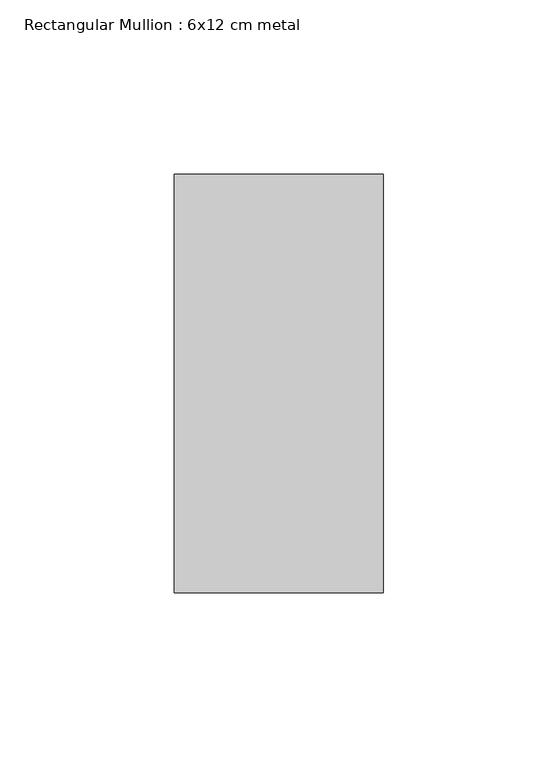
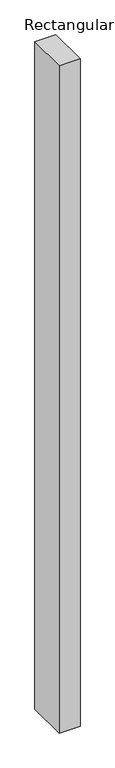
"""IFC4 building model written with IfcOpenShell, lengths in millimetres: member geometry, Rectangular Mullion : 6x12 cm metal."""

from ifc_helpers import new_model, si_unit, frame, origin, place, context, project, spatial, polyline, outline, extrude, source, transform, mapped, element, save


def rectangular_mullion_6x12_cm_metal_94a525de(model_context):
    return source(origin(), model_context, "Body", "SweptSolid", [
        extrude(outline(polyline([(0.0, 60.0), (0.0, -60.0), (-60.0, -60.0), (-60.0, 60.0), (0.0, 60.0)])), frame((0.0, 0.0, -2019.9478635), z_axis=(0.0, 0.0, 1.0), x_axis=(1.0, 0.0, 0.0)), (0.0, 0.0, 1.0), 2019.9478635),
    ])


if __name__ == "__main__":
    model = new_model("IFC4")
    model_context = context("Model", 3, world=origin())
    ifc_project = project(units=[si_unit("LENGTHUNIT", "METRE", prefix="MILLI")], contexts=[model_context])
    site = spatial("IfcSite", under=ifc_project)
    building = spatial("IfcBuilding", under=site)
    placement = place(None, origin())
    rectangular_mullion_6x12_cm_metal_shape = rectangular_mullion_6x12_cm_metal_94a525de(model_context)
    element("IfcMember", 1, ObjectType="Rectangular Mullion : 6x12 cm metal", at=placement, inside=building, context=model_context, shape_type="MappedRepresentation", body=[
        mapped(rectangular_mullion_6x12_cm_metal_shape, transform((0.0, 0.0, 0.0), x_axis=(1.0, 0.0, 0.0), y_axis=(0.0, 1.0, 0.0), z_axis=(0.0, 0.0, 1.0))),
    ])
    save(model, "model.ifc")
